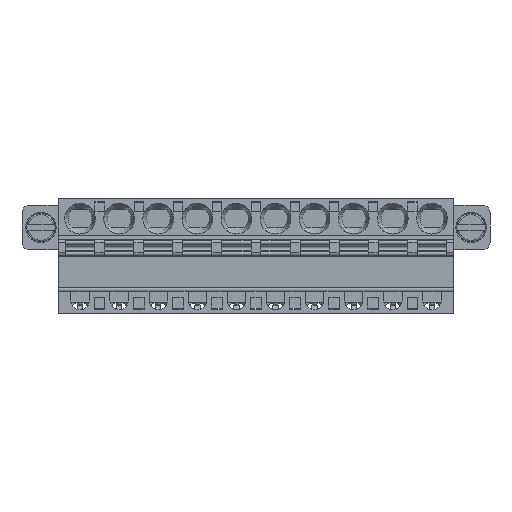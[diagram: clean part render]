
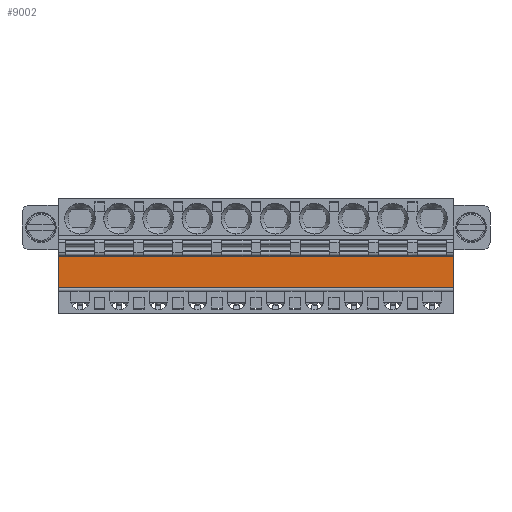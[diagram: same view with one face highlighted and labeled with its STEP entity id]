
A CAD part, front view. The second image highlights one B-rep face of the part: STEP entity #9002.
In plain terms, the highlighted planar face has unit normal (0, -1, 0).
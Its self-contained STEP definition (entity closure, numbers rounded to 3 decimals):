
#9002 = ADVANCED_FACE('',(#9003),#9017,.T.);
#9003 = FACE_BOUND('',#9004,.F.);
#9004 = EDGE_LOOP('',(#9005,#9028,#9044,#9060));
#9005 = ORIENTED_EDGE('',*,*,#9006,.F.);
#9006 = EDGE_CURVE('',#9007,#9009,#9011,.T.);
#9007 = VERTEX_POINT('',#9008);
#9008 = CARTESIAN_POINT('',(-51.4,0.,-8.));
#9009 = VERTEX_POINT('',#9010);
#9010 = CARTESIAN_POINT('',(0.,0.,-8.));
#9011 = SURFACE_CURVE('',#9012,(#9016),.PCURVE_S1.);
#9012 = LINE('',#9013,#9014);
#9013 = CARTESIAN_POINT('',(-51.4,0.,-8.));
#9014 = VECTOR('',#9015,1.);
#9015 = DIRECTION('',(1.,0.,0.));
#9016 = PCURVE('',#9017,#9022);
#9017 = PLANE('',#9018);
#9018 = AXIS2_PLACEMENT_3D('',#9019,#9020,#9021);
#9019 = CARTESIAN_POINT('',(-20.92,0.,3.65));
#9020 = DIRECTION('',(0.,-1.,0.));
#9021 = DIRECTION('',(0.,0.,-1.));
#9022 = DEFINITIONAL_REPRESENTATION('',(#9023),#9027);
#9023 = LINE('',#9024,#9025);
#9024 = CARTESIAN_POINT('',(11.65,-30.48));
#9025 = VECTOR('',#9026,1.);
#9026 = DIRECTION('',(0.,1.));
#9027 = ( GEOMETRIC_REPRESENTATION_CONTEXT(2) 
PARAMETRIC_REPRESENTATION_CONTEXT() REPRESENTATION_CONTEXT('2D SPACE',''
  ) );
#9028 = ORIENTED_EDGE('',*,*,#9029,.F.);
#9029 = EDGE_CURVE('',#9030,#9007,#9032,.T.);
#9030 = VERTEX_POINT('',#9031);
#9031 = CARTESIAN_POINT('',(-51.4,0.,-3.85));
#9032 = SURFACE_CURVE('',#9033,(#9037),.PCURVE_S1.);
#9033 = LINE('',#9034,#9035);
#9034 = CARTESIAN_POINT('',(-51.4,0.,-3.85));
#9035 = VECTOR('',#9036,1.);
#9036 = DIRECTION('',(0.,0.,-1.));
#9037 = PCURVE('',#9017,#9038);
#9038 = DEFINITIONAL_REPRESENTATION('',(#9039),#9043);
#9039 = LINE('',#9040,#9041);
#9040 = CARTESIAN_POINT('',(7.5,-30.48));
#9041 = VECTOR('',#9042,1.);
#9042 = DIRECTION('',(1.,0.));
#9043 = ( GEOMETRIC_REPRESENTATION_CONTEXT(2) 
PARAMETRIC_REPRESENTATION_CONTEXT() REPRESENTATION_CONTEXT('2D SPACE',''
  ) );
#9044 = ORIENTED_EDGE('',*,*,#9045,.F.);
#9045 = EDGE_CURVE('',#9046,#9030,#9048,.T.);
#9046 = VERTEX_POINT('',#9047);
#9047 = CARTESIAN_POINT('',(0.,0.,-3.85));
#9048 = SURFACE_CURVE('',#9049,(#9053),.PCURVE_S1.);
#9049 = LINE('',#9050,#9051);
#9050 = CARTESIAN_POINT('',(0.,0.,-3.85));
#9051 = VECTOR('',#9052,1.);
#9052 = DIRECTION('',(-1.,0.,0.));
#9053 = PCURVE('',#9017,#9054);
#9054 = DEFINITIONAL_REPRESENTATION('',(#9055),#9059);
#9055 = LINE('',#9056,#9057);
#9056 = CARTESIAN_POINT('',(7.5,20.92));
#9057 = VECTOR('',#9058,1.);
#9058 = DIRECTION('',(0.,-1.));
#9059 = ( GEOMETRIC_REPRESENTATION_CONTEXT(2) 
PARAMETRIC_REPRESENTATION_CONTEXT() REPRESENTATION_CONTEXT('2D SPACE',''
  ) );
#9060 = ORIENTED_EDGE('',*,*,#9061,.T.);
#9061 = EDGE_CURVE('',#9046,#9009,#9062,.T.);
#9062 = SURFACE_CURVE('',#9063,(#9067),.PCURVE_S1.);
#9063 = LINE('',#9064,#9065);
#9064 = CARTESIAN_POINT('',(0.,0.,-3.85));
#9065 = VECTOR('',#9066,1.);
#9066 = DIRECTION('',(0.,0.,-1.));
#9067 = PCURVE('',#9017,#9068);
#9068 = DEFINITIONAL_REPRESENTATION('',(#9069),#9073);
#9069 = LINE('',#9070,#9071);
#9070 = CARTESIAN_POINT('',(7.5,20.92));
#9071 = VECTOR('',#9072,1.);
#9072 = DIRECTION('',(1.,0.));
#9073 = ( GEOMETRIC_REPRESENTATION_CONTEXT(2) 
PARAMETRIC_REPRESENTATION_CONTEXT() REPRESENTATION_CONTEXT('2D SPACE',''
  ) );
